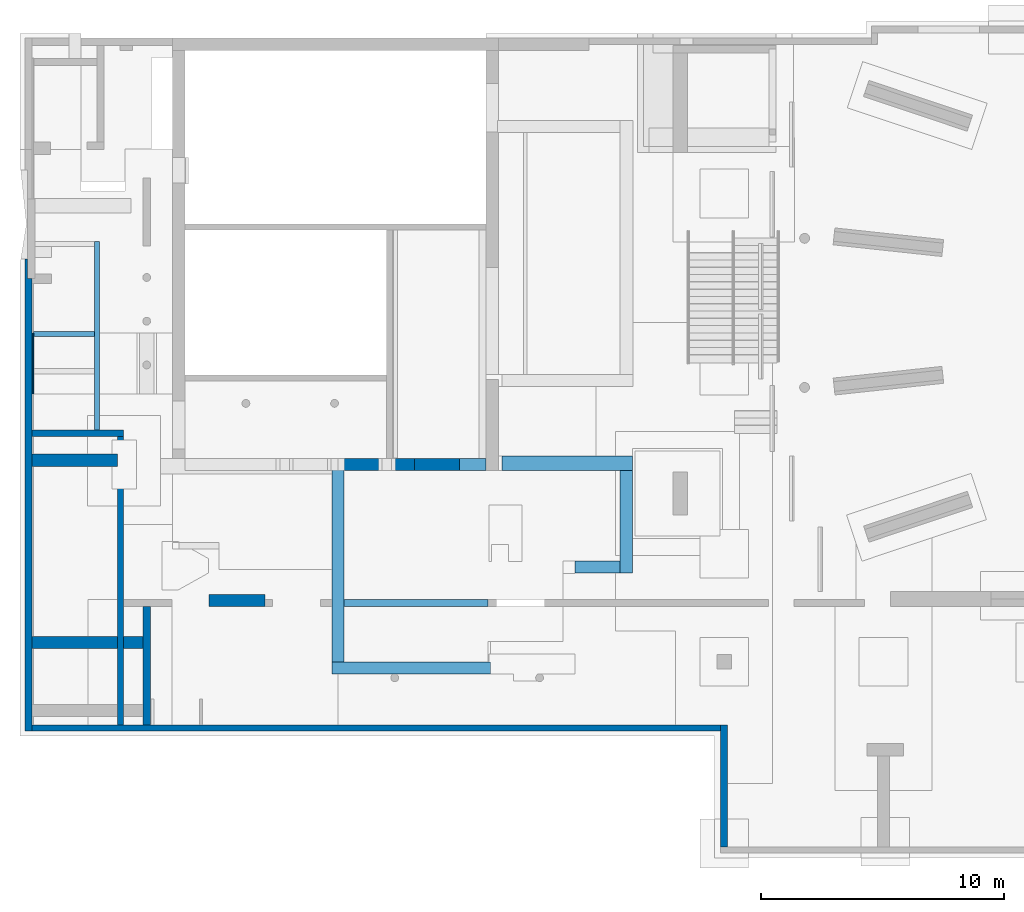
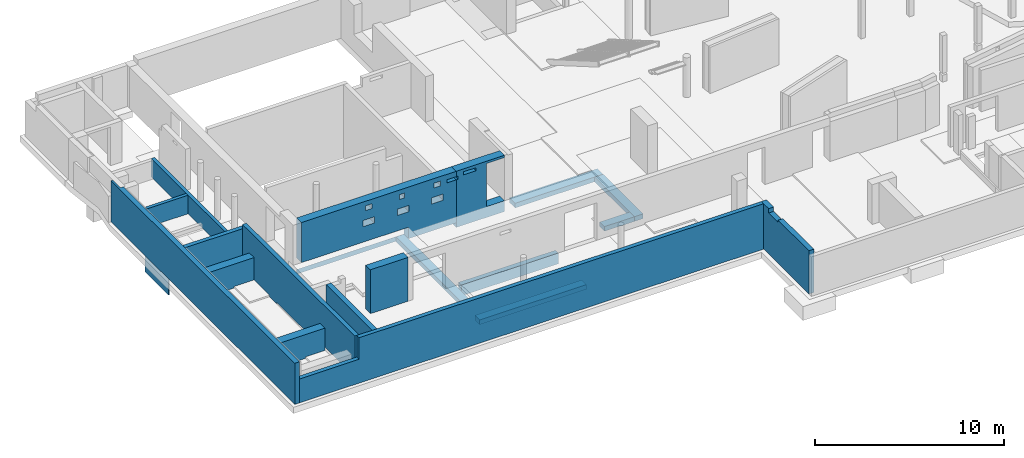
# One storey, part 31 of 42: 20 walls, 21 openings.
"""IFC2X3 building model written with IfcOpenShell, lengths in millimetres."""

import ifcopenshell
import ifcopenshell.guid

model = None  # the IFC model being written
_history = None  # IfcOwnerHistory: only IFC2X3 demands one
_inside = {}  # id of a spatial element -> (the spatial element, [elements in it])
_under = {}  # id of a project, library or spatial element -> (it, [spatial elements below it])
_declared = {}  # id of a project -> (the project, [libraries it declares])
_typed = {}  # id of a type object -> (the type object, [elements of that type])
_made_of = {}  # id of a material, layer set ... -> (it, [elements and type objects made of it])


def new_model(schema):
    """Start an empty IFC model of exactly this schema.

    Asked for "IFC4X3", IfcOpenShell would pick the latest addendum, in which some entities
    have other attributes; the version numbers below select the first issue.
    IFC2X3 requires an IfcOwnerHistory on every rooted entity: one is made here for all.
    """
    global model, _history
    if schema == "IFC4X3":
        model = ifcopenshell.file(schema_version=(4, 3, 0, 0))
    else:
        model = ifcopenshell.file(schema=schema)
    _inside.clear()
    _under.clear()
    _declared.clear()
    _typed.clear()
    _made_of.clear()
    _history = None
    if model.schema == "IFC2X3":
        org = make("IfcOrganization", Name="unknown")
        user = make(
            "IfcPersonAndOrganization",
            ThePerson=make("IfcPerson", FamilyName="unknown"),
            TheOrganization=org,
        )
        app = make(
            "IfcApplication",
            ApplicationDeveloper=org,
            Version="unknown",
            ApplicationFullName="unknown",
            ApplicationIdentifier="unknown",
        )
        _history = make(
            "IfcOwnerHistory",
            OwningUser=user,
            OwningApplication=app,
            ChangeAction="ADDED",
            CreationDate=0,
        )
    return model


def make(cls, **values):
    """One entity of the class cls with the attributes given. An attribute that is None is left unset."""
    return model.create_entity(
        cls, **{name: value for name, value in values.items() if value is not None}
    )


def entity(cls, *values):
    """Any entity or typed value of the class cls, its attributes in the order of the schema. None: left unset."""
    e = model.create_entity(cls)
    for i, value in enumerate(values):
        if value is not None:
            e[i] = value
    return e


def rooted(cls, **values):
    """An entity with a GlobalId (a new one), such as an element, a storey or a relation."""
    return make(cls, GlobalId=ifcopenshell.guid.new(), OwnerHistory=_history, **values)


def si_unit(unit_type, name, prefix=None):
    """IfcSIUnit, for example si_unit("LENGTHUNIT", "METRE", prefix="MILLI")."""
    return make("IfcSIUnit", UnitType=unit_type, Prefix=prefix, Name=name)


def converted_unit(unit_type, name, factor, base, dimensions=None, offset=None):
    """IfcConversionBasedUnit, such as the inch: factor (a typed value) times the base unit."""
    return make(
        "IfcConversionBasedUnit"
        if offset is None
        else "IfcConversionBasedUnitWithOffset",
        ConversionOffset=offset,
        Dimensions=None
        if dimensions is None
        else entity("IfcDimensionalExponents", *dimensions),
        UnitType=unit_type,
        Name=name,
        ConversionFactor=make(
            "IfcMeasureWithUnit", ValueComponent=factor, UnitComponent=base
        ),
    )


def derived_unit(unit_type, elements):
    """IfcDerivedUnit: a product of units, each with its exponent."""
    return make(
        "IfcDerivedUnit",
        Elements=[
            make("IfcDerivedUnitElement", Unit=unit, Exponent=power)
            for unit, power in elements
        ],
        UnitType=unit_type,
    )


def assignment(units):
    """IfcUnitAssignment: the units of a project."""
    return None if units is None else make("IfcUnitAssignment", Units=units)


def point(xyz):
    """IfcCartesianPoint."""
    return None if xyz is None else make("IfcCartesianPoint", Coordinates=xyz)


def direction(xyz):
    """IfcDirection."""
    return None if xyz is None else make("IfcDirection", DirectionRatios=xyz)


def frame(location, z_axis=None, x_axis=None):
    """IfcAxis2Placement3D, a coordinate frame: its origin and axes. An axis left out is left unset."""
    return make(
        "IfcAxis2Placement3D",
        Location=point(location),
        Axis=direction(z_axis),
        RefDirection=direction(x_axis),
    )


def frame_2d(location, x_axis=None):
    """IfcAxis2Placement2D, a coordinate frame in the plane: its origin and x axis."""
    return make(
        "IfcAxis2Placement2D", Location=point(location), RefDirection=direction(x_axis)
    )


def origin():
    """The frame at (0, 0, 0) with its axes left unset."""
    return frame((0.0, 0.0, 0.0))


def origin_2d_with_axis():
    """The frame at (0, 0) in the plane with the x axis (1, 0) written out."""
    return frame_2d((0.0, 0.0), x_axis=(1.0, 0.0))


def place(relative_to, where):
    """IfcLocalPlacement: puts the frame where relative to a parent placement (None: the world)."""
    return make(
        "IfcLocalPlacement", PlacementRelTo=relative_to, RelativePlacement=where
    )


def context(
    kind, dimensions, precision=None, world=None, true_north=None, identifier=None
):
    """IfcGeometricRepresentationContext, for example the 3D "Model" context."""
    return make(
        "IfcGeometricRepresentationContext",
        ContextIdentifier=identifier,
        ContextType=kind,
        CoordinateSpaceDimension=dimensions,
        Precision=precision,
        WorldCoordinateSystem=world,
        TrueNorth=true_north,
    )


def subcontext(parent, identifier, kind, view, scale=None):
    """IfcGeometricRepresentationSubContext, for example "Body" below "Model"."""
    return make(
        "IfcGeometricRepresentationSubContext",
        ContextIdentifier=identifier,
        ContextType=kind,
        ParentContext=parent,
        TargetScale=scale,
        TargetView=view,
    )


def project(units=None, contexts=None):
    """IfcProject with its units and contexts."""
    return rooted(
        "IfcProject",
        Name="project",
        RepresentationContexts=contexts,
        UnitsInContext=assignment(units),
    )


def spatial(cls, under=None, at=None, **own):
    """A site, building, storey or space (cls), placed at a placement, below another one or the project."""
    s = rooted(cls, ObjectPlacement=at, **own)
    if under is not None:
        _under.setdefault(under.id(), (under, []))[1].append(s)
    return s


def polyline(points):
    """IfcPolyline through the points."""
    return make("IfcPolyline", Points=[point(p) for p in points])


def profile(cls, at=None, kind="AREA", **sizes):
    """A parametric profile (cls). Its sizes go by their IFC names, for example OverallWidth=200.0."""
    return make(cls, ProfileType=kind, Position=at, **sizes)


def rectangle(**sizes):
    """IfcRectangleProfileDef."""
    return profile("IfcRectangleProfileDef", **sizes)


def outline(outer, holes=None, kind="AREA"):
    """IfcArbitraryClosedProfileDef: a profile drawn as a closed curve; with holes, ...WithVoids."""
    if holes is None:
        return make("IfcArbitraryClosedProfileDef", ProfileType=kind, OuterCurve=outer)
    return make(
        "IfcArbitraryProfileDefWithVoids",
        ProfileType=kind,
        OuterCurve=outer,
        InnerCurves=holes,
    )


def extrude(swept, where, along, depth):
    """IfcExtrudedAreaSolid: the profile swept, set in the frame where, extruded along a direction by depth."""
    return make(
        "IfcExtrudedAreaSolid",
        SweptArea=swept,
        Position=where,
        ExtrudedDirection=direction(along),
        Depth=depth,
    )


def clip(a, b, op="DIFFERENCE"):
    """IfcBooleanClippingResult: the solid a cut by the half space b."""
    return make(
        "IfcBooleanClippingResult", Operator=op, FirstOperand=a, SecondOperand=b
    )


def bounded_halfspace(plane, agree, where, boundary):
    """IfcPolygonalBoundedHalfSpace: a half space limited to a polygon's prism."""
    return make(
        "IfcPolygonalBoundedHalfSpace",
        BaseSurface=make("IfcPlane", Position=plane),
        AgreementFlag=agree,
        Position=where,
        PolygonalBoundary=boundary,
    )


def shape(context_of_items, identifier, shape_type, items):
    """IfcShapeRepresentation: the items that make up one representation, for example the "Body"."""
    return make(
        "IfcShapeRepresentation",
        ContextOfItems=context_of_items,
        RepresentationIdentifier=identifier,
        RepresentationType=shape_type,
        Items=items,
    )


def material(Name=None, Category=None):
    """IfcMaterial."""
    return make("IfcMaterial", Name=Name, Category=Category)


def layer(
    of_material, thickness, ventilated=None, Name=None, Category=None, Priority=None
):
    """IfcMaterialLayer: one layer of a wall or slab, of a material (None: an air gap)."""
    return make(
        "IfcMaterialLayer",
        Material=of_material,
        LayerThickness=thickness,
        IsVentilated=ventilated,
        Name=Name,
        Category=Category,
        Priority=Priority,
    )


def layer_set(layers, Name=None):
    """IfcMaterialLayerSet."""
    return make("IfcMaterialLayerSet", MaterialLayers=layers, LayerSetName=Name)


def layer_usage(for_layer_set, set_direction, sense, offset, extent=None):
    """IfcMaterialLayerSetUsage: how a layer set lies in its element."""
    return make(
        "IfcMaterialLayerSetUsage",
        ForLayerSet=for_layer_set,
        LayerSetDirection=set_direction,
        DirectionSense=sense,
        OffsetFromReferenceLine=offset,
        ReferenceExtent=extent,
    )


def made_of(thing, what):
    """Note that an element or type object is made of a material, layer set ...; save() writes the relation."""
    if what is not None:
        _made_of.setdefault(what.id(), (what, []))[1].append(thing)
    return thing


def type_object(cls, material=None, **own):
    """A type object (cls), such as IfcWallType, which elements share."""
    return made_of(rooted(cls, **own), material)


def element(
    cls,
    number,
    at=None,
    inside=None,
    cuts=None,
    type_object=None,
    material=None,
    context=None,
    identifier="Body",
    shape_type=None,
    held_by="IfcProductDefinitionShape",
    body=None,
    shapes=None,
    **own,
):
    """One element of the class cls, such as IfcWall. Its Tag is "e" and its number.

    at: its placement. inside: the storey or other place that contains it. cuts: it is an
    opening in that element (IfcRelVoidsElement). A single representation is given by context,
    identifier, shape_type and body (its items); several are given by shapes. held_by: the class
    of the entity that holds the representations. save() writes the other relations.
    """
    e = rooted(cls, Tag="e%d" % number, ObjectPlacement=at, **own)
    if body is not None:
        shapes = [shape(context, identifier, shape_type, body)]
    if shapes is not None:
        e.Representation = make(held_by, Representations=shapes)
    if inside is not None:
        _inside.setdefault(inside.id(), (inside, []))[1].append(e)
    if cuts is not None:
        rooted(
            "IfcRelVoidsElement", RelatingBuildingElement=cuts, RelatedOpeningElement=e
        )
    if type_object is not None:
        _typed.setdefault(type_object.id(), (type_object, []))[1].append(e)
    return made_of(e, material)


def aggregate(whole, parts):
    """IfcRelAggregates: a whole, such as a stair, and the parts it consists of."""
    return rooted("IfcRelAggregates", RelatingObject=whole, RelatedObjects=parts)


def save(model, path):
    """Write the relations noted so far, then the file.

    IfcRelAggregates (storeys below a building ...), IfcRelContainedInSpatialStructure (elements
    in a storey), IfcRelDefinesByType, IfcRelAssociatesMaterial and IfcRelDeclares: one each for
    every whole, place, type object, material and project.
    """
    for whole, parts in _under.values():
        aggregate(whole, parts)
    for where, things in _inside.values():
        rooted(
            "IfcRelContainedInSpatialStructure",
            RelatedElements=things,
            RelatingStructure=where,
        )
    for kind, things in _typed.values():
        rooted("IfcRelDefinesByType", RelatedObjects=things, RelatingType=kind)
    for what, things in _made_of.values():
        rooted("IfcRelAssociatesMaterial", RelatedObjects=things, RelatingMaterial=what)
    for by, libraries in _declared.values():
        rooted("IfcRelDeclares", RelatingContext=by, RelatedDefinitions=libraries)
    model.write(path)


model = new_model("IFC2X3")

# Units and contexts
model_context = context("Model", 3, precision=0.01, world=origin(), true_north=direction((6.12303176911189e-17, 1.0)))
body_context = subcontext(model_context, "Body", "Model", "MODEL_VIEW")
ifc_project = project(units=[si_unit("LENGTHUNIT", "METRE", prefix="MILLI"), si_unit("AREAUNIT", "SQUARE_METRE", prefix="MILLI"), si_unit("VOLUMEUNIT", "CUBIC_METRE"), converted_unit("PLANEANGLEUNIT", "DEGREE", entity("IfcRatioMeasure", 0.0174532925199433), si_unit("PLANEANGLEUNIT", "RADIAN"), dimensions=[0, 0, 0, 0, 0, 0, 0]), si_unit("MASSUNIT", "GRAM", prefix="KILO"), derived_unit("MASSDENSITYUNIT", [(si_unit("MASSUNIT", "GRAM", prefix="KILO"), 1), (si_unit("LENGTHUNIT", "METRE"), -3)]), derived_unit("MOMENTOFINERTIAUNIT", [(si_unit("LENGTHUNIT", "METRE"), 4)]), si_unit("TIMEUNIT", "SECOND"), si_unit("FREQUENCYUNIT", "HERTZ"), si_unit("THERMODYNAMICTEMPERATUREUNIT", "DEGREE_CELSIUS"), derived_unit("THERMALTRANSMITTANCEUNIT", [(si_unit("MASSUNIT", "GRAM", prefix="KILO"), 1), (si_unit("THERMODYNAMICTEMPERATUREUNIT", "KELVIN"), -1), (si_unit("TIMEUNIT", "SECOND"), -3)]), derived_unit("VOLUMETRICFLOWRATEUNIT", [(si_unit("LENGTHUNIT", "METRE"), 3), (si_unit("TIMEUNIT", "SECOND"), -1)]), si_unit("ELECTRICCURRENTUNIT", "AMPERE"), si_unit("ELECTRICVOLTAGEUNIT", "VOLT"), si_unit("POWERUNIT", "WATT"), si_unit("FORCEUNIT", "NEWTON", prefix="KILO"), si_unit("ILLUMINANCEUNIT", "LUX"), si_unit("LUMINOUSFLUXUNIT", "LUMEN"), si_unit("LUMINOUSINTENSITYUNIT", "CANDELA"), derived_unit("USERDEFINED", [(si_unit("MASSUNIT", "GRAM", prefix="KILO"), -1), (si_unit("LENGTHUNIT", "METRE"), -2), (si_unit("TIMEUNIT", "SECOND"), 3), (si_unit("LUMINOUSFLUXUNIT", "LUMEN"), 1)]), derived_unit("LINEARVELOCITYUNIT", [(si_unit("LENGTHUNIT", "METRE"), 1), (si_unit("TIMEUNIT", "SECOND"), -1)]), si_unit("PRESSUREUNIT", "PASCAL"), derived_unit("USERDEFINED", [(si_unit("LENGTHUNIT", "METRE"), -2), (si_unit("MASSUNIT", "GRAM", prefix="KILO"), 1), (si_unit("TIMEUNIT", "SECOND"), -2)]), derived_unit("LINEARFORCEUNIT", [(si_unit("MASSUNIT", "GRAM", prefix="KILO"), 1), (si_unit("LENGTHUNIT", "METRE"), 1), (si_unit("TIMEUNIT", "SECOND"), -2), (si_unit("LENGTHUNIT", "METRE"), -1)]), derived_unit("PLANARFORCEUNIT", [(si_unit("MASSUNIT", "GRAM", prefix="KILO"), 1), (si_unit("LENGTHUNIT", "METRE"), 1), (si_unit("TIMEUNIT", "SECOND"), -2), (si_unit("LENGTHUNIT", "METRE"), -2)])], contexts=[model_context])

# Site, building, storey
site_placement = place(None, origin())
site = spatial("IfcSite", under=ifc_project, at=site_placement, Name="Theater aan de Parade", CompositionType="ELEMENT")
building_placement = place(site_placement, origin())
building = spatial("IfcBuilding", under=site, at=building_placement, Name="Theater aan de Parade", CompositionType="ELEMENT")
storey_placement = place(building_placement, frame((0.0, 0.0, -3300.0)))
storey = spatial("IfcBuildingStorey", under=building, at=storey_placement, Name="-1 kelder", CompositionType="ELEMENT", Elevation=-3300.0)

# Wall, opening
ifc_material_1 = material(Name="00_PBT_MAT_beton t.p.g.")
ifc_layer_1 = layer(ifc_material_1, 250.0)
ifc_layer_set_1 = layer_set([ifc_layer_1], Name="Basic Wall:16_PBT_WA_beton t.p.g._d=250_bestaand")
ifc_layer_usage_1 = layer_usage(ifc_layer_set_1, "AXIS2", "POSITIVE", -125.0)
wall_type_1 = type_object("IfcWallType", Name="Basic Wall:16_PBT_WA_beton t.p.g._d=250_bestaand", PredefinedType="STANDARD", material=ifc_layer_set_1)
wall_1_placement = place(storey_placement, frame((10490.0, 15315.0, -40.0)))
wall_1 = element("IfcWallStandardCase", 1, at=wall_1_placement, inside=storey, type_object=wall_type_1, material=ifc_layer_usage_1, Name="Basic Wall:16_PBT_WA_beton t.p.g._d=250_bestaand", ObjectType="Basic Wall:16_PBT_WA_beton t.p.g._d=250_bestaand", context=body_context, shape_type="SweptSolid", body=[
    extrude(rectangle(XDim=28325.0, YDim=249.999999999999, at=frame_2d((14162.5, -5.6843418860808e-13), x_axis=(-1.0, 0.0))), origin(), (0.0, 0.0, 1.0), 2930.00000000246),
])
opening_1_placement = place(wall_1_placement, origin())
element("IfcOpeningElement", 2, at=opening_1_placement, cuts=wall_1, Name="Basic Wall:16_PBT_WA_beton t.p.g._d=250_bestaand", ObjectType="Opening", context=body_context, shape_type="SweptSolid", body=[
    extrude(rectangle(XDim=1390.00000000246, YDim=3629.11331215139, at=frame_2d((0.0, -5.6843418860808e-13), x_axis=(0.0, 1.0))), frame((1814.55665607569, 125.0, 2235.0), z_axis=(0.0, -1.0, 0.0), x_axis=(-1.0, 0.0, 0.0)), (0.0, 0.0, 1.0), 250.0),
])

ifc_layer_2 = layer(ifc_material_1, 300.0)
ifc_layer_set_2 = layer_set([ifc_layer_2], Name="Basic Wall:16_PBT_WA_beton t.p.g._d=300_bestaand")
ifc_layer_usage_2 = layer_usage(ifc_layer_set_2, "AXIS2", "NEGATIVE", 150.0)
wall_type_2 = type_object("IfcWallType", Name="Basic Wall:16_PBT_WA_beton t.p.g._d=300_bestaand", PredefinedType="STANDARD", material=ifc_layer_set_2)
wall_2_placement = place(storey_placement, frame((38965.0, 10410.0, -40.0), z_axis=(0.0, 0.0, 1.0), x_axis=(0.0, 1.0, 0.0)))
wall_2 = element("IfcWallStandardCase", 3, at=wall_2_placement, inside=storey, type_object=wall_type_2, material=ifc_layer_usage_2, Name="Basic Wall:16_PBT_WA_beton t.p.g._d=300_bestaand", ObjectType="Basic Wall:16_PBT_WA_beton t.p.g._d=300_bestaand", context=body_context, shape_type="SweptSolid", body=[
    extrude(rectangle(XDim=5029.99999999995, YDim=300.000000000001, at=frame_2d((2514.99999999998, 0.0), x_axis=(-1.0, 0.0))), origin(), (0.0, 0.0, 1.0), 2930.00000000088),
])
opening_2_placement = place(wall_2_placement, origin())
element("IfcOpeningElement", 4, at=opening_2_placement, cuts=wall_2, Name="Basic Wall:16_PBT_WA_beton t.p.g._d=300_bestaand", ObjectType="Opening", context=body_context, shape_type="SweptSolid", body=[
    extrude(outline(polyline([(-1795.23489810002, -140.0), (2590.46979620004, -140.0), (2590.46979620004, 0.0), (-795.234898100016, 0.0), (-795.234898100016, 140.0), (-1795.23489810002, 140.0), (-1795.23489810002, -140.0)])), frame((2465.46979619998, 150.0, 2790.0), z_axis=(0.0, -1.0, 0.0), x_axis=(-1.0, 0.0, 0.0)), (0.0, 0.0, 1.0), 300.0),
])

# Walls
ifc_layer_usage_3 = layer_usage(ifc_layer_set_2, "AXIS2", "NEGATIVE", 150.0)
wall_3_placement = place(storey_placement, frame((10340.0, 15190.0, -40.0), z_axis=(0.0, 0.0, 1.0), x_axis=(0.0, 1.0, 0.0)))
element("IfcWallStandardCase", 5, at=wall_3_placement, inside=storey, type_object=wall_type_2, material=ifc_layer_usage_3, Name="Basic Wall:16_PBT_WA_beton t.p.g._d=300_bestaand", ObjectType="Basic Wall:16_PBT_WA_beton t.p.g._d=300_bestaand", context=body_context, shape_type="Clipping", body=[
    clip(clip(extrude(rectangle(XDim=19435.0, YDim=300.000000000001, at=frame_2d((9717.49999999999, 0.0), x_axis=(-1.0, 0.0))), origin(), (0.0, 0.0, 1.0), 2650.00000000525), bounded_halfspace(frame((18625.0, 40.0, 2650.0), z_axis=(0.0, 1.0, 0.0), x_axis=(-1.0, 0.0, 0.0)), True, frame((18625.0, 40.0, 2650.0), z_axis=(0.0, 1.0, 0.0), x_axis=(-1.0, 0.0, 0.0)), polyline([(0.0, 0.0), (-810.0, 0.0), (-810.0, -960.0), (-810.0, -2650.0), (0.0, -2650.0), (0.0, 0.0)]))), bounded_halfspace(frame((18625.0, 40.0, 0.0), z_axis=(-1.0, 0.0, 0.0), x_axis=(0.0, 1.0, 0.0)), True, frame((18625.0, 40.0, 0.0), z_axis=(-1.0, 0.0, 0.0), x_axis=(0.0, 1.0, 0.0)), polyline([(0.0, 0.0), (-190.0, 0.0), (-190.0, -2650.0), (0.0, -2650.0), (0.0, 0.0)]))),
])
ifc_layer_3 = layer(ifc_material_1, 500.0)
ifc_layer_set_3 = layer_set([ifc_layer_3], Name="Basic Wall:16_PBT_WA_beton t.p.g._d=500_bestaand")
ifc_layer_usage_4 = layer_usage(ifc_layer_set_3, "AXIS2", "NEGATIVE", 250.0)
wall_type_3 = type_object("IfcWallType", Name="Basic Wall:16_PBT_WA_beton t.p.g._d=500_bestaand", PredefinedType="STANDARD", material=ifc_layer_set_3)
wall_4_placement = place(storey_placement, frame((34680.0, 21940.0, -740.0), z_axis=(0.0, 0.0, 1.0), x_axis=(-1.0, 0.0, 0.0)))
element("IfcWallStandardCase", 6, at=wall_4_placement, inside=storey, type_object=wall_type_3, material=ifc_layer_usage_4, Name="Basic Wall:16_PBT_WA_beton t.p.g._d=500_bestaand", ObjectType="Basic Wall:16_PBT_WA_beton t.p.g._d=500_bestaand", context=body_context, shape_type="SweptSolid", body=[
    extrude(rectangle(XDim=1840.00000000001, YDim=499.999999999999, at=frame_2d((920.000000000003, 5.11590769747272e-13), x_axis=(-1.0, 0.0))), origin(), (0.0, 0.0, 1.0), 300.0),
])
ifc_layer_usage_5 = layer_usage(ifc_layer_set_3, "AXIS2", "POSITIVE", -250.0)
wall_5_placement = place(storey_placement, frame((23075.0, 26400.0, -740.0), z_axis=(0.0, 0.0, 1.0), x_axis=(0.0, -1.0, 0.0)))
element("IfcWallStandardCase", 7, at=wall_5_placement, inside=storey, type_object=wall_type_3, material=ifc_layer_usage_5, Name="Basic Wall:16_PBT_WA_beton t.p.g._d=500_bestaand", ObjectType="Basic Wall:16_PBT_WA_beton t.p.g._d=500_bestaand", context=body_context, shape_type="Clipping", body=[
    clip(extrude(rectangle(XDim=8360.0, YDim=499.999999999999, at=frame_2d((4180.0, -1.4210854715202e-13), x_axis=(-1.0, 0.0))), origin(), (0.0, 0.0, 1.0), 299.999999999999), bounded_halfspace(frame((8360.0, -250.0, 300.0), z_axis=(0.0, 0.0, -1.0), x_axis=(-1.0, 0.0, 0.0)), True, frame((8360.0, -250.0, 300.0), z_axis=(0.0, 0.0, -1.0), x_axis=(-1.0, 0.0, 0.0)), polyline([(0.0, 0.0), (7720.0, 0.0), (7870.0, 0.0), (8360.0, 0.0), (8360.0, 500.0), (3800.0, 500.0), (0.0, 500.0), (0.0, 0.0)]))),
])
ifc_layer_usage_6 = layer_usage(ifc_layer_set_3, "AXIS2", "POSITIVE", -250.0)
wall_6_placement = place(storey_placement, frame((22825.0, 17790.0, -740.0)))
element("IfcWallStandardCase", 8, at=wall_6_placement, inside=storey, type_object=wall_type_3, material=ifc_layer_usage_6, Name="Basic Wall:16_PBT_WA_beton t.p.g._d=500_bestaand", ObjectType="Basic Wall:16_PBT_WA_beton t.p.g._d=500_bestaand", context=body_context, shape_type="SweptSolid", body=[
    extrude(rectangle(XDim=6520.00000000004, YDim=499.999999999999, at=frame_2d((3260.00000000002, -7.105427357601e-14), x_axis=(-1.0, 0.0))), origin(), (0.0, 0.0, 1.0), 300.0),
])
ifc_layer_4 = layer(ifc_material_1, 600.0)
ifc_layer_set_4 = layer_set([ifc_layer_4], Name="Basic Wall:16_PBT_WA_beton t.p.g._d=600_bestaand")
ifc_layer_usage_7 = layer_usage(ifc_layer_set_4, "AXIS2", "NEGATIVE", 300.0)
wall_type_4 = type_object("IfcWallType", Name="Basic Wall:16_PBT_WA_beton t.p.g._d=600_bestaand", PredefinedType="STANDARD", material=ifc_layer_set_4)
wall_7_placement = place(storey_placement, frame((35205.0, 26210.0, -740.0), z_axis=(0.0, 0.0, 1.0), x_axis=(-1.0, 0.0, 0.0)))
element("IfcWallStandardCase", 9, at=wall_7_placement, inside=storey, type_object=wall_type_4, material=ifc_layer_usage_7, Name="Basic Wall:16_PBT_WA_beton t.p.g._d=600_bestaand", ObjectType="Basic Wall:16_PBT_WA_beton t.p.g._d=600_bestaand", context=body_context, shape_type="SweptSolid", body=[
    extrude(rectangle(XDim=5380.00000000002, YDim=600.000000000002, at=frame_2d((2690.00000000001, 1.56319401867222e-12), x_axis=(-1.0, 0.0))), origin(), (0.0, 0.0, 1.0), 300.0),
])

# Wall, openings
ifc_layer_5 = layer(ifc_material_1, 500.0)
ifc_layer_set_5 = layer_set([ifc_layer_5], Name="Basic Wall:28_PBT_WA_beton t.p.g._d=500_bestaand")
ifc_layer_usage_8 = layer_usage(ifc_layer_set_5, "AXIS2", "POSITIVE", -250.0)
wall_type_5 = type_object("IfcWallType", Name="Basic Wall:28_PBT_WA_beton t.p.g._d=500_bestaand", PredefinedType="STANDARD", material=ifc_layer_set_5)
wall_8_placement = place(storey_placement, frame((16775.0, 26160.0, -740.0)))
wall_8 = element("IfcWallStandardCase", 10, at=wall_8_placement, inside=storey, type_object=wall_type_5, material=ifc_layer_usage_8, Name="Basic Wall:28_PBT_WA_beton t.p.g._d=500_bestaand", ObjectType="Basic Wall:28_PBT_WA_beton t.p.g._d=500_bestaand", context=body_context, shape_type="Clipping", body=[
    clip(clip(clip(extrude(rectangle(XDim=9459.99999999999, YDim=499.999999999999, at=frame_2d((4730.0, 8.24229573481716e-13), x_axis=(-1.0, 0.0))), origin(), (0.0, 0.0, 1.0), 3630.00000000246), bounded_halfspace(frame((6550.0, -250.0, 1040.0), z_axis=(1.0, 0.0, 0.0), x_axis=(0.0, 0.0, 1.0)), True, frame((6550.0, -250.0, 1040.0), z_axis=(1.0, 0.0, 0.0), x_axis=(0.0, 0.0, 1.0)), polyline([(0.0, 0.0), (-1040.0, 0.0), (-1040.0, -490.0), (-740.0, -490.0), (-740.0, -500.0), (0.0, -500.0), (0.0, 0.0)]))), bounded_halfspace(frame((6050.0, 240.0, 0.0), z_axis=(-1.0, 0.0, 0.0), x_axis=(0.0, -1.0, 0.0)), True, frame((6050.0, 240.0, 0.0), z_axis=(-1.0, 0.0, 0.0), x_axis=(0.0, -1.0, 0.0)), polyline([(0.0, 0.0), (490.0, 0.0), (490.0, 300.0), (0.0, 300.0), (0.0, 0.0)]))), bounded_halfspace(frame((6550.0, 240.0, 0.0), z_axis=(0.0, 1.0, 0.0), x_axis=(1.0, 0.0, 0.0)), True, frame((6550.0, 240.0, 0.0), z_axis=(0.0, 1.0, 0.0), x_axis=(1.0, 0.0, 0.0)), polyline([(0.0, 0.0), (-500.0, 0.0), (-500.0, -300.0), (0.0, -300.0), (0.0, 0.0)]))),
])
opening_3_placement = place(wall_8_placement, origin())
element("IfcOpeningElement", 11, at=opening_3_placement, cuts=wall_8, Name="Basic Wall:28_PBT_WA_beton t.p.g._d=500_bestaand", ObjectType="Opening", context=body_context, shape_type="SweptSolid", body=[
    extrude(rectangle(XDim=199.999999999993, YDim=100.000000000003, at=frame_2d((0.0, 0.0), x_axis=(0.0, 1.0))), frame((9510.0, -250.0, 3177.95760675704), z_axis=(0.0, 1.0, 0.0), x_axis=(1.0, 0.0, 0.0)), (0.0, 0.0, 1.0), 499.999999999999),
])
opening_4_placement = place(wall_8_placement, origin())
element("IfcOpeningElement", 12, at=opening_4_placement, cuts=wall_8, Name="Basic Wall:28_PBT_WA_beton t.p.g._d=500_bestaand", ObjectType="Opening", context=body_context, shape_type="SweptSolid", body=[
    extrude(rectangle(XDim=300.000000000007, YDim=400.0, at=frame_2d((0.0, -2.17426077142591e-12), x_axis=(1.0, 0.0))), frame((4110.0, 250.0, 3180.0), z_axis=(0.0, -1.0, 0.0), x_axis=(0.0, 0.0, 1.0)), (0.0, 0.0, 1.0), 500.0),
])
opening_5_placement = place(wall_8_placement, origin())
element("IfcOpeningElement", 13, at=opening_5_placement, cuts=wall_8, Name="Basic Wall:28_PBT_WA_beton t.p.g._d=500_bestaand", ObjectType="Opening", context=body_context, shape_type="SweptSolid", body=[
    extrude(rectangle(XDim=300.000000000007, YDim=289.999999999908, at=origin_2d_with_axis()), frame((6155.0, 250.0, 3180.0), z_axis=(0.0, -1.0, 0.0), x_axis=(0.0, 0.0, 1.0)), (0.0, 0.0, 1.0), 500.0),
])
opening_6_placement = place(wall_8_placement, origin())
element("IfcOpeningElement", 14, at=opening_6_placement, cuts=wall_8, Name="Basic Wall:28_PBT_WA_beton t.p.g._d=500_bestaand", ObjectType="Opening", context=body_context, shape_type="SweptSolid", body=[
    extrude(rectangle(XDim=300.000000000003, YDim=400.000000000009, at=frame_2d((0.0, -2.1600499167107e-12), x_axis=(1.0, 0.0))), frame((8310.0, 250.0, 3180.0), z_axis=(0.0, -1.0, 0.0), x_axis=(0.0, 0.0, 1.0)), (0.0, 0.0, 1.0), 500.0),
])
opening_7_placement = place(wall_8_placement, origin())
element("IfcOpeningElement", 15, at=opening_7_placement, cuts=wall_8, Name="Basic Wall:28_PBT_WA_beton t.p.g._d=500_bestaand", ObjectType="Opening", context=body_context, shape_type="SweptSolid", body=[
    extrude(rectangle(XDim=400.000000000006, YDim=699.999999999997, at=frame_2d((1.4210854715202e-13, 0.0), x_axis=(1.0, 0.0))), frame((8310.0, 250.0, 2240.0), z_axis=(0.0, -1.0, 0.0), x_axis=(0.0, 0.0, 1.0)), (0.0, 0.0, 1.0), 500.0),
])
opening_8_placement = place(wall_8_placement, origin())
element("IfcOpeningElement", 16, at=opening_8_placement, cuts=wall_8, Name="Basic Wall:28_PBT_WA_beton t.p.g._d=500_bestaand", ObjectType="Opening", context=body_context, shape_type="SweptSolid", body=[
    extrude(rectangle(XDim=400.000000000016, YDim=700.000000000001, at=frame_2d((0.0, 2.1600499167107e-12), x_axis=(1.0, 0.0))), frame((6210.0, 250.0, 2240.0), z_axis=(0.0, -1.0, 0.0), x_axis=(0.0, 0.0, 1.0)), (0.0, 0.0, 1.0), 500.0),
])
opening_9_placement = place(wall_8_placement, origin())
element("IfcOpeningElement", 17, at=opening_9_placement, cuts=wall_8, Name="Basic Wall:28_PBT_WA_beton t.p.g._d=500_bestaand", ObjectType="Opening", context=body_context, shape_type="SweptSolid", body=[
    extrude(rectangle(XDim=400.000000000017, YDim=700.000000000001, at=frame_2d((0.0, -2.1600499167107e-12), x_axis=(1.0, 0.0))), frame((4110.0, 250.0, 2240.0), z_axis=(0.0, -1.0, 0.0), x_axis=(0.0, 0.0, 1.0)), (0.0, 0.0, 1.0), 500.0),
])
opening_10_placement = place(wall_8_placement, origin())
element("IfcOpeningElement", 18, at=opening_10_placement, cuts=wall_8, Name="Basic Wall:28_PBT_WA_beton t.p.g._d=500_bestaand", ObjectType="Opening", context=body_context, shape_type="SweptSolid", body=[
    extrude(rectangle(XDim=200.0, YDim=556.300025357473, at=frame_2d((0.0, -2.1600499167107e-12), x_axis=(1.0, 0.0))), frame((9181.84998732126, 250.0, 3177.95760675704), z_axis=(0.0, 1.0, 0.0), x_axis=(0.0, 0.0, 1.0)), (0.0, 0.0, -1.0), 500.0),
])

# Walls
ifc_layer_6 = layer(ifc_material_1, 525.0)
ifc_layer_set_6 = layer_set([ifc_layer_6], Name="Basic Wall:16_PBT_WA_beton t.p.g._d=525_bestaand")
ifc_layer_usage_9 = layer_usage(ifc_layer_set_6, "AXIS2", "NEGATIVE", 262.5)
wall_type_6 = type_object("IfcWallType", Name="Basic Wall:16_PBT_WA_beton t.p.g._d=525_bestaand", PredefinedType="STANDARD", material=ifc_layer_set_6)
wall_9_placement = place(storey_placement, frame((34942.5000000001, 25910.0, -740.0), z_axis=(0.0, 0.0, 1.0), x_axis=(0.0, -1.0, 0.0)))
element("IfcWallStandardCase", 19, at=wall_9_placement, inside=storey, type_object=wall_type_6, material=ifc_layer_usage_9, Name="Basic Wall:16_PBT_WA_beton t.p.g._d=525_bestaand", ObjectType="Basic Wall:16_PBT_WA_beton t.p.g._d=525_bestaand", context=body_context, shape_type="SweptSolid", body=[
    extrude(rectangle(XDim=4220.00000000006, YDim=525.000000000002, at=frame_2d((2110.00000000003, -9.09494701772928e-13), x_axis=(-1.0, 0.0))), origin(), (0.0, 0.0, 1.0), 300.0),
])
ifc_material_2 = material(Name="00_PBT_MAT_beton t.p.g._C30/37")
ifc_layer_7 = layer(ifc_material_2, 300.0)
ifc_layer_set_7 = layer_set([ifc_layer_7], Name="Basic Wall:28_PBT_WA_beton t.p.g._d=300_C30/37")
ifc_layer_usage_10 = layer_usage(ifc_layer_set_7, "AXIS2", "NEGATIVE", 150.0)
wall_type_7 = type_object("IfcWallType", Name="Basic Wall:28_PBT_WA_beton t.p.g._d=300_C30/37", PredefinedType="STANDARD", material=ifc_layer_set_7)
wall_10_placement = place(storey_placement, frame((15203.8570025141, 20311.3674530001, 260.0), z_axis=(0.0, 0.0, 1.0), x_axis=(0.0, -1.0, 0.0)))
element("IfcWallStandardCase", 20, at=wall_10_placement, inside=storey, type_object=wall_type_7, material=ifc_layer_usage_10, Name="Basic Wall:28_PBT_WA_beton t.p.g._d=300_C30/37", ObjectType="Basic Wall:28_PBT_WA_beton t.p.g._d=300_C30/37", context=body_context, shape_type="Clipping", body=[
    clip(extrude(rectangle(XDim=4871.36745300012, YDim=300.000000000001, at=frame_2d((2435.68372650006, 3.12638803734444e-13), x_axis=(-1.0, 0.0))), origin(), (0.0, 0.0, 1.0), 2630.00000000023), bounded_halfspace(frame((4871.36745300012, -150.0, 0.0), z_axis=(0.0, 0.0, 1.0), x_axis=(0.0, 1.0, 0.0)), True, frame((4871.36745300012, -150.0, 0.0), z_axis=(0.0, 0.0, 1.0), x_axis=(0.0, 1.0, 0.0)), polyline([(0.0, 0.0), (300.0, 0.0), (300.0, 4871.36745300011), (0.0, 4871.36745300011), (0.0, 0.0)]))),
])
ifc_layer_usage_11 = layer_usage(ifc_layer_set_7, "AXIS2", "NEGATIVE", 150.0)
wall_11_placement = place(storey_placement, frame((23325.0, 20461.3674530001, -740.0)))
element("IfcWallStandardCase", 21, at=wall_11_placement, inside=storey, type_object=wall_type_7, material=ifc_layer_usage_11, Name="Basic Wall:28_PBT_WA_beton t.p.g._d=300_C30/37", ObjectType="Basic Wall:28_PBT_WA_beton t.p.g._d=300_C30/37", context=body_context, shape_type="SweptSolid", body=[
    extrude(rectangle(XDim=5914.99999999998, YDim=300.000000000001, at=frame_2d((2957.49999999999, -3.5527136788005e-13), x_axis=(-1.0, 0.0))), origin(), (0.0, 0.0, 1.0), 700.0),
])
ifc_layer_8 = layer(ifc_material_2, 250.0)
ifc_layer_set_8 = layer_set([ifc_layer_8], Name="Basic Wall:28_PBT_WA_beton t.p.g._d=250_C30/37")
ifc_layer_usage_12 = layer_usage(ifc_layer_set_8, "AXIS2", "POSITIVE", -125.0)
wall_type_8 = type_object("IfcWallType", Name="Basic Wall:28_PBT_WA_beton t.p.g._d=250_C30/37", PredefinedType="STANDARD", material=ifc_layer_set_8)
wall_12_placement = place(storey_placement, frame((14244.1133121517, 27445.0, -40.0), z_axis=(0.0, 0.0, 1.0), x_axis=(-1.0, 0.0, 0.0)))
element("IfcWallStandardCase", 22, at=wall_12_placement, inside=storey, type_object=wall_type_8, material=ifc_layer_usage_12, Name="Basic Wall:28_PBT_WA_beton t.p.g._d=250_C30/37", ObjectType="Basic Wall:28_PBT_WA_beton t.p.g._d=250_C30/37", context=body_context, shape_type="Clipping", body=[
    clip(clip(extrude(rectangle(XDim=3754.11331215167, YDim=250.000000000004, at=frame_2d((1877.05665607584, -4.12114786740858e-13), x_axis=(-1.0, 0.0))), origin(), (0.0, 0.0, 1.0), 2650.00000000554), bounded_halfspace(frame((1469.11331215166, 125.0, 100.0)), True, frame((1469.11331215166, 125.0, 100.0)), polyline([(0.0, 0.0), (-1219.11331215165, 0.0), (-1469.11331215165, 0.0), (-1469.11331215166, -250.0), (0.0, -250.0), (0.0, 0.0)]))), bounded_halfspace(frame((1469.11331215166, -125.0, 100.0), z_axis=(1.0, 0.0, 0.0), x_axis=(0.0, 0.0, 1.0)), True, frame((1469.11331215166, -125.0, 100.0), z_axis=(1.0, 0.0, 0.0), x_axis=(0.0, 0.0, 1.0)), polyline([(0.0, 0.0), (-100.0, 0.0), (-100.0, -250.0), (0.0, -250.0), (0.0, 0.0)]))),
])
ifc_layer_usage_13 = layer_usage(ifc_layer_set_8, "AXIS2", "NEGATIVE", 125.0)
wall_13_placement = place(storey_placement, frame((14119.1133121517, 27320.0, -40.0), z_axis=(0.0, 0.0, 1.0), x_axis=(0.0, -1.0, 0.0)))
element("IfcWallStandardCase", 23, at=wall_13_placement, inside=storey, type_object=wall_type_8, material=ifc_layer_usage_13, Name="Basic Wall:28_PBT_WA_beton t.p.g._d=250_C30/37", ObjectType="Basic Wall:28_PBT_WA_beton t.p.g._d=250_C30/37", context=body_context, shape_type="Clipping", body=[
    clip(clip(clip(clip(clip(clip(clip(clip(extrude(rectangle(XDim=11879.9999999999, YDim=249.999999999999, at=frame_2d((5939.99999999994, 9.2370555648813e-14), x_axis=(-1.0, 0.0))), origin(), (0.0, 0.0, 1.0), 2930.00000000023), bounded_halfspace(frame((11879.3270746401, 125.0, 1840.0), z_axis=(0.0, 0.0, -1.0), x_axis=(0.0, 1.0, 0.0)), True, frame((11879.3270746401, 125.0, 1840.0), z_axis=(0.0, 0.0, -1.0), x_axis=(0.0, 1.0, 0.0)), polyline([(0.0, 0.0), (0.0, 0.672925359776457), (-250.0, 0.672925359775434), (-250.0, 0.0), (0.0, 0.0)]))), bounded_halfspace(frame((11879.3270746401, -125.0, 1840.0), z_axis=(-1.0, 0.0, 0.0), x_axis=(0.0, 1.0, 0.0)), True, frame((11879.3270746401, -125.0, 1840.0), z_axis=(-1.0, 0.0, 0.0), x_axis=(0.0, 1.0, 0.0)), polyline([(0.0, 0.0), (0.0, -1090.0), (250.0, -1090.0), (250.0, 0.0), (0.0, 0.0)]))), bounded_halfspace(frame((6708.63254699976, -125.0, 300.0), z_axis=(0.0, 0.0, 1.0), x_axis=(0.0, 1.0, 0.0)), True, frame((6708.63254699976, -125.0, 300.0), z_axis=(0.0, 0.0, 1.0), x_axis=(0.0, 1.0, 0.0)), polyline([(0.0, 0.0), (0.0, -5171.36745300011), (250.0, -5171.36745300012), (250.0, -4821.36745300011), (250.0, -4321.36745300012), (250.0, -2030.57591229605), (250.0, -1530.57591229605), (250.0, -300.0), (250.0, 0.0), (0.0, 0.0)]))), bounded_halfspace(frame((6708.63254699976, 125.0, 300.0), z_axis=(-1.0, 0.0, 0.0), x_axis=(0.0, 0.0, 1.0)), True, frame((6708.63254699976, 125.0, 300.0), z_axis=(-1.0, 0.0, 0.0), x_axis=(0.0, 0.0, 1.0)), polyline([(0.0, 0.0), (-200.0, 0.0), (-200.0, -250.0), (0.0, -250.0), (0.0, 0.0)]))), bounded_halfspace(frame((2870.0, 125.0, 100.0), z_axis=(0.0, 0.0, 1.0), x_axis=(0.0, -1.0, 0.0)), True, frame((2870.0, 125.0, 100.0), z_axis=(0.0, 0.0, 1.0), x_axis=(0.0, -1.0, 0.0)), polyline([(0.0, 0.0), (0.0, -2870.0), (250.0, -2870.0), (250.0, -2130.0), (250.0, -1630.0), (250.0, 0.0), (0.0, 0.0)]))), bounded_halfspace(frame((2870.0, -125.0, 100.0), z_axis=(1.0, 0.0, 0.0), x_axis=(0.0, 0.0, 1.0)), True, frame((2870.0, -125.0, 100.0), z_axis=(1.0, 0.0, 0.0), x_axis=(0.0, 0.0, 1.0)), polyline([(0.0, 0.0), (-100.0, 0.0), (-100.0, -250.0), (0.0, -250.0), (0.0, 0.0)]))), bounded_halfspace(frame((3630.0, -125.0, 100.0), z_axis=(0.0, 0.0, 1.0), x_axis=(0.0, 1.0, 0.0)), True, frame((3630.0, -125.0, 100.0), z_axis=(0.0, 0.0, 1.0), x_axis=(0.0, 1.0, 0.0)), polyline([(0.0, 0.0), (0.0, -3078.63254699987), (250.0, -3078.63254699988), (250.0, 0.0), (0.0, 0.0)]))), bounded_halfspace(frame((3630.0, 125.0, 100.0), z_axis=(-1.0, 0.0, 0.0), x_axis=(0.0, 0.0, 1.0)), True, frame((3630.0, 125.0, 100.0), z_axis=(-1.0, 0.0, 0.0), x_axis=(0.0, 0.0, 1.0)), polyline([(0.0, 0.0), (-100.0, 0.0), (-100.0, -250.0), (0.0, -250.0), (0.0, 0.0)]))),
])

# Wall, openings
ifc_layer_9 = layer(ifc_material_2, 500.0)
ifc_layer_set_9 = layer_set([ifc_layer_9], Name="Basic Wall:28_PBT_WA_beton t.p.g._d=500_C30/37")
ifc_layer_usage_14 = layer_usage(ifc_layer_set_9, "AXIS2", "NEGATIVE", 250.0)
wall_type_9 = type_object("IfcWallType", Name="Basic Wall:28_PBT_WA_beton t.p.g._d=500_C30/37", PredefinedType="STANDARD", material=ifc_layer_set_9)
wall_14_placement = place(storey_placement, frame((26235.0, 26160.0, -740.0)))
wall_14 = element("IfcWallStandardCase", 24, at=wall_14_placement, inside=storey, type_object=wall_type_9, material=ifc_layer_usage_14, Name="Basic Wall:28_PBT_WA_beton t.p.g._d=500_C30/37", ObjectType="Basic Wall:28_PBT_WA_beton t.p.g._d=500_C30/37", context=body_context, shape_type="SweptSolid", body=[
    extrude(rectangle(XDim=2940.00000000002, YDim=499.999999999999, at=frame_2d((1470.00000000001, -2.1316282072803e-13), x_axis=(-1.0, 0.0))), origin(), (0.0, 0.0, 1.0), 3630.0000000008),
])
opening_11_placement = place(wall_14_placement, origin())
element("IfcOpeningElement", 25, at=opening_11_placement, cuts=wall_14, Name="Basic Wall:28_PBT_WA_beton t.p.g._d=500_C30/37", ObjectType="Opening", context=body_context, shape_type="SweptSolid", body=[
    extrude(rectangle(XDim=2779.99999999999, YDim=1100.00000000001, at=frame_2d((-2.1600499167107e-12, 0.0), x_axis=(0.0, 1.0))), frame((2390.0, -250.0, 2090.0), z_axis=(0.0, 1.0, 0.0), x_axis=(1.0, 0.0, 0.0)), (0.0, 0.0, 1.0), 499.999999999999),
])
opening_12_placement = place(wall_14_placement, origin())
element("IfcOpeningElement", 26, at=opening_12_placement, cuts=wall_14, Name="Basic Wall:28_PBT_WA_beton t.p.g._d=500_C30/37", ObjectType="Opening", context=body_context, shape_type="SweptSolid", body=[
    extrude(rectangle(XDim=199.999999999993, YDim=100.000000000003, at=frame_2d((0.0, 0.0), x_axis=(0.0, 1.0))), frame((50.0, -250.0, 3177.95760675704), z_axis=(0.0, 1.0, 0.0), x_axis=(1.0, 0.0, 0.0)), (0.0, 0.0, 1.0), 499.999999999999),
])
opening_13_placement = place(wall_14_placement, origin())
element("IfcOpeningElement", 27, at=opening_13_placement, cuts=wall_14, Name="Basic Wall:28_PBT_WA_beton t.p.g._d=500_C30/37", ObjectType="Opening", context=body_context, shape_type="SweptSolid", body=[
    extrude(rectangle(XDim=199.999999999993, YDim=750.000000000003, at=frame_2d((0.0, 0.0), x_axis=(0.0, 1.0))), frame((825.0, -250.0, 3340.0), z_axis=(0.0, 1.0, 0.0), x_axis=(1.0, 0.0, 0.0)), (0.0, 0.0, 1.0), 499.999999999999),
])

# Wall, opening
ifc_layer_usage_15 = layer_usage(ifc_layer_set_9, "AXIS2", "NEGATIVE", 250.0)
wall_15_placement = place(storey_placement, frame((10490.0, 18830.7915407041, -40.0)))
wall_15 = element("IfcWallStandardCase", 28, at=wall_15_placement, inside=storey, type_object=wall_type_9, material=ifc_layer_usage_15, Name="Basic Wall:28_PBT_WA_beton t.p.g._d=500_C30/37", ObjectType="Basic Wall:28_PBT_WA_beton t.p.g._d=500_C30/37", context=body_context, shape_type="Clipping", body=[
    clip(clip(clip(extrude(rectangle(XDim=4563.85700251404, YDim=499.999999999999, at=frame_2d((2281.92850125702, -5.6843418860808e-14), x_axis=(-1.0, 0.0))), origin(), (0.0, 0.0, 1.0), 1540.00000000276), bounded_halfspace(frame((2304.11331215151, -250.0, 100.0)), True, frame((2304.11331215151, -250.0, 100.0)), polyline([(0.0, 0.0), (1200.0, 0.0), (1200.0, 500.0), (0.0, 500.0), (0.0, 0.0)]))), bounded_halfspace(frame((2304.11331215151, 250.0, 100.0), z_axis=(-1.0, 0.0, 0.0), x_axis=(0.0, 0.0, 1.0)), True, frame((2304.11331215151, 250.0, 100.0), z_axis=(-1.0, 0.0, 0.0), x_axis=(0.0, 0.0, 1.0)), polyline([(0.0, 0.0), (-100.0, 0.0), (-100.0, -500.0), (0.0, -500.0), (0.0, 0.0)]))), bounded_halfspace(frame((4563.85700251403, -250.0, 300.0)), True, frame((4563.85700251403, -250.0, 300.0)), polyline([(0.0, 0.0), (0.0, 500.0), (-809.74369036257, 500.0), (-809.743690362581, 0.0), (0.0, 0.0)]))),
])
opening_14_placement = place(storey_placement, frame((10490.0, 18830.7915407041, -40.0)))
element("IfcOpeningElement", 29, at=opening_14_placement, cuts=wall_15, Name="Basic Wall:28_PBT_WA_beton t.p.g._d=500_C30/37:1", ObjectType="Opening", context=body_context, shape_type="SweptSolid", body=[
    extrude(rectangle(XDim=1440.00000000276, YDim=499.999999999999, at=frame_2d((2.17426077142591e-12, -173.333333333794), x_axis=(0.0, 1.0))), frame((3504.11331215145, 0.0, 646.666666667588), z_axis=(1.0, 0.0, 0.0), x_axis=(0.0, -1.0, 0.0)), (0.0, 0.0, 1.0), 249.999999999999),
])

# Walls
ifc_layer_usage_16 = layer_usage(ifc_layer_set_9, "AXIS2", "NEGATIVE", 250.0)
wall_16_placement = place(storey_placement, frame((10490.0, 26330.0, -40.0)))
element("IfcWallStandardCase", 30, at=wall_16_placement, inside=storey, type_object=wall_type_9, material=ifc_layer_usage_16, Name="Basic Wall:28_PBT_WA_beton t.p.g._d=500_C30/37", ObjectType="Basic Wall:28_PBT_WA_beton t.p.g._d=500_C30/37", context=body_context, shape_type="Clipping", body=[
    clip(clip(extrude(rectangle(XDim=3504.11331215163, YDim=499.999999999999, at=frame_2d((1752.05665607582, -7.105427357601e-13), x_axis=(-1.0, 0.0))), origin(), (0.0, 0.0, 1.0), 1540.00000000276), bounded_halfspace(frame((2285.0, -250.0, 100.0), z_axis=(0.0, 0.0, 1.0), x_axis=(-1.0, 0.0, 0.0)), True, frame((2285.0, -250.0, 100.0), z_axis=(0.0, 0.0, 1.0), x_axis=(-1.0, 0.0, 0.0)), polyline([(0.0, 0.0), (-1219.11331215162, 0.0), (-1219.11331215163, -500.0), (0.0, -500.0), (0.0, 0.0)]))), bounded_halfspace(frame((2285.0, 250.0, 100.0), z_axis=(-1.0, 0.0, 0.0), x_axis=(0.0, 0.0, 1.0)), True, frame((2285.0, 250.0, 100.0), z_axis=(-1.0, 0.0, 0.0), x_axis=(0.0, 0.0, 1.0)), polyline([(0.0, 0.0), (-100.0, 0.0), (-100.0, -500.0), (0.0, -500.0), (0.0, 0.0)]))),
])
ifc_layer_10 = layer(ifc_material_2, 200.0)
ifc_layer_set_10 = layer_set([ifc_layer_10], Name="Basic Wall:28_PBT_WA_beton t.p.g._d=200_C30/37")
ifc_layer_usage_17 = layer_usage(ifc_layer_set_10, "AXIS2", "POSITIVE", -100.0)
wall_type_10 = type_object("IfcWallType", Name="Basic Wall:28_PBT_WA_beton t.p.g._d=200_C30/37", PredefinedType="STANDARD", material=ifc_layer_set_10)
wall_17_placement = place(storey_placement, frame((13154.11255371, 35332.0, 1410.0), z_axis=(0.0, 0.0, 1.0), x_axis=(0.0, -1.0, 0.0)))
element("IfcWallStandardCase", 31, at=wall_17_placement, inside=storey, type_object=wall_type_10, material=ifc_layer_usage_17, Name="Basic Wall:28_PBT_WA_beton t.p.g._d=200_C30/37", ObjectType="Basic Wall:28_PBT_WA_beton t.p.g._d=200_C30/37", context=body_context, shape_type="SweptSolid", body=[
    extrude(rectangle(XDim=7762.00000001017, YDim=199.999999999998, at=frame_2d((3881.00000000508, 5.54223333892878e-13), x_axis=(-1.0, 0.0))), origin(), (0.0, 0.0, 1.0), 1200.00000000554),
])
ifc_layer_usage_18 = layer_usage(ifc_layer_set_10, "AXIS2", "POSITIVE", -100.0)
wall_18_placement = place(storey_placement, frame((13054.11255371, 31532.0, 1410.0), z_axis=(0.0, 0.0, 1.0), x_axis=(-1.0, 0.0, 0.0)))
element("IfcWallStandardCase", 32, at=wall_18_placement, inside=storey, type_object=wall_type_10, material=ifc_layer_usage_18, Name="Basic Wall:28_PBT_WA_beton t.p.g._d=200_C30/37", ObjectType="Basic Wall:28_PBT_WA_beton t.p.g._d=200_C30/37", context=body_context, shape_type="SweptSolid", body=[
    extrude(rectangle(XDim=2499.99999998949, YDim=199.999999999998, at=frame_2d((1249.99999999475, 4.40536496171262e-13), x_axis=(-1.0, 0.0))), origin(), (0.0, 0.0, 1.0), 1200.00000000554),
])

# Wall, openings
ifc_material_3 = material(Name="00_PBT_MAT_beton t.p.g._C53/65")
ifc_layer_11 = layer(ifc_material_3, 500.0)
ifc_layer_set_11 = layer_set([ifc_layer_11], Name="Basic Wall:28_PBT_WA_beton t.p.g._d=500_C53/65")
ifc_layer_usage_19 = layer_usage(ifc_layer_set_11, "AXIS2", "NEGATIVE", 250.0)
wall_type_11 = type_object("IfcWallType", Name="Basic Wall:28_PBT_WA_beton t.p.g._d=500_C53/65", PredefinedType="STANDARD", material=ifc_layer_set_11)
wall_19_placement = place(storey_placement, frame((17757.8570025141, 20561.3674530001, 60.0)))
wall_19 = element("IfcWallStandardCase", 33, at=wall_19_placement, inside=storey, type_object=wall_type_11, material=ifc_layer_usage_19, Name="Basic Wall:28_PBT_WA_beton t.p.g._d=500_C53/65", ObjectType="Basic Wall:28_PBT_WA_beton t.p.g._d=500_C53/65", context=body_context, shape_type="Clipping", body=[
    clip(extrude(rectangle(XDim=2305.0, YDim=499.999999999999, at=frame_2d((1152.5, -3.97903932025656e-13), x_axis=(-1.0, 0.0))), origin(), (0.0, 0.0, 1.0), 2830.00000000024), bounded_halfspace(frame((2305.0, -250.0, 0.0)), True, frame((2305.0, -250.0, 0.0)), polyline([(0.0, 0.0), (0.0, 300.0), (0.0, 500.0), (-2305.0, 500.0), (-2305.0, 0.0), (0.0, 0.0)]))),
])
opening_15_placement = place(wall_19_placement, origin())
element("IfcOpeningElement", 34, at=opening_15_placement, cuts=wall_19, Name="Basic Wall:28_PBT_WA_beton t.p.g._d=500_C53/65", ObjectType="Recess", context=body_context, shape_type="SweptSolid", body=[
    extrude(rectangle(XDim=2419.99999999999, YDim=1975.00000000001, at=frame_2d((2.1600499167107e-12, 0.0), x_axis=(0.0, 1.0))), frame((3604.36707938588, -250.0, 1110.0), z_axis=(0.0, 1.0, 0.0), x_axis=(1.0, 0.0, 0.0)), (0.0, 0.0, 1.0), 300.000000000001),
])
opening_16_placement = place(wall_19_placement, origin())
element("IfcOpeningElement", 35, at=opening_16_placement, cuts=wall_19, Name="Basic Wall:28_PBT_WA_beton t.p.g._d=500_C53/65", ObjectType="Recess", context=body_context, shape_type="SweptSolid", body=[
    extrude(rectangle(XDim=2419.99999999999, YDim=1054.0, at=frame_2d((0.0, 0.0), x_axis=(0.0, 1.0))), frame((23559.2494268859, -250.0, 1110.0), z_axis=(0.0, 1.0, 0.0), x_axis=(1.0, 0.0, 0.0)), (0.0, 0.0, 1.0), 300.000000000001),
])
opening_17_placement = place(wall_19_placement, origin())
element("IfcOpeningElement", 36, at=opening_17_placement, cuts=wall_19, Name="Basic Wall:28_PBT_WA_beton t.p.g._d=500_C53/65", ObjectType="Recess", context=body_context, shape_type="SweptSolid", body=[
    extrude(rectangle(XDim=2419.99999999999, YDim=1975.00000000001, at=frame_2d((-2.1600499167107e-12, 0.0), x_axis=(0.0, 1.0))), frame((12833.5564307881, -250.0, 1110.0), z_axis=(0.0, 1.0, 0.0), x_axis=(1.0, 0.0, 0.0)), (0.0, 0.0, 1.0), 300.000000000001),
])
opening_18_placement = place(wall_19_placement, origin())
element("IfcOpeningElement", 37, at=opening_18_placement, cuts=wall_19, Name="Basic Wall:28_PBT_WA_beton t.p.g._d=500_C53/65", ObjectType="Recess", context=body_context, shape_type="SweptSolid", body=[
    extrude(rectangle(XDim=2929.99999999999, YDim=1504.0, at=frame_2d((0.0, 0.0), x_axis=(0.0, 1.0))), frame((-752.0, -250.0, 1365.0), z_axis=(0.0, 1.0, 0.0), x_axis=(1.0, 0.0, 0.0)), (0.0, 0.0, 1.0), 300.000000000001),
])
opening_19_placement = place(wall_19_placement, origin())
element("IfcOpeningElement", 38, at=opening_19_placement, cuts=wall_19, Name="Basic Wall:28_PBT_WA_beton t.p.g._d=500_C53/65", ObjectType="Recess", context=body_context, shape_type="SweptSolid", body=[
    extrude(rectangle(XDim=2419.99999999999, YDim=1054.0, at=frame_2d((0.0, 0.0), x_axis=(0.0, 1.0))), frame((27519.7130582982, -250.0, 1110.0), z_axis=(0.0, 1.0, 0.0), x_axis=(1.0, 0.0, 0.0)), (0.0, 0.0, 1.0), 300.000000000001),
])
opening_20_placement = place(wall_19_placement, origin())
element("IfcOpeningElement", 39, at=opening_20_placement, cuts=wall_19, Name="Basic Wall:28_PBT_WA_beton t.p.g._d=500_C53/65", ObjectType="Recess", context=body_context, shape_type="SweptSolid", body=[
    extrude(rectangle(XDim=199.999999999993, YDim=675.000000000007, at=frame_2d((-2.1600499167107e-12, 0.0), x_axis=(0.0, 1.0))), frame((8239.64299748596, -250.0, 2377.95760675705), z_axis=(0.0, 1.0, 0.0), x_axis=(1.0, 0.0, 0.0)), (0.0, 0.0, 1.0), 300.000000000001),
])
opening_21_placement = place(wall_19_placement, origin())
element("IfcOpeningElement", 40, at=opening_21_placement, cuts=wall_19, Name="Basic Wall:28_PBT_WA_beton t.p.g._d=500_C53/65", ObjectType="Recess", context=body_context, shape_type="SweptSolid", body=[
    extrude(rectangle(XDim=249.999999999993, YDim=600.000000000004, at=frame_2d((1.08002495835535e-12, 0.0), x_axis=(0.0, 1.0))), frame((-2104.0, -250.0, 2705.0), z_axis=(0.0, 1.0, 0.0), x_axis=(1.0, 0.0, 0.0)), (0.0, 0.0, 1.0), 300.000000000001),
])

# Wall
ifc_layer_12 = layer(ifc_material_2, 65.0)
ifc_layer_set_12 = layer_set([ifc_layer_12], Name="Basic Wall:28_PBT_WA_beton t.p.g._d=65_C30/37")
ifc_layer_usage_20 = layer_usage(ifc_layer_set_12, "AXIS2", "POSITIVE", -32.5)
wall_type_12 = type_object("IfcWallType", Name="Basic Wall:28_PBT_WA_beton t.p.g._d=65_C30/37", PredefinedType="STANDARD", material=ifc_layer_set_12)
wall_20_placement = place(storey_placement, frame((10522.5000000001, 29065.0, -1500.0), z_axis=(0.0, 0.0, 1.0), x_axis=(0.0, 1.0, 0.0)))
element("IfcWallStandardCase", 41, at=wall_20_placement, inside=storey, type_object=wall_type_12, material=ifc_layer_usage_20, Name="Basic Wall:28_PBT_WA_beton t.p.g._d=65_C30/37", ObjectType="Basic Wall:28_PBT_WA_beton t.p.g._d=65_C30/37", context=body_context, shape_type="SweptSolid", body=[
    extrude(rectangle(XDim=2500.0, YDim=64.9999999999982, at=frame_2d((1250.0, 0.0), x_axis=(-1.0, 0.0))), origin(), (0.0, 0.0, 1.0), 1260.0),
])

save(model, "model.ifc")
